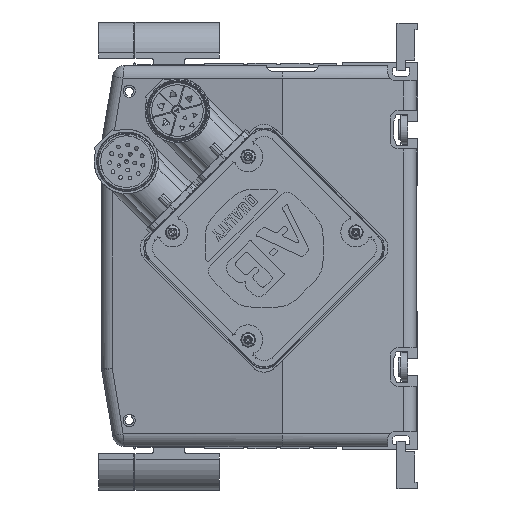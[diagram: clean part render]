
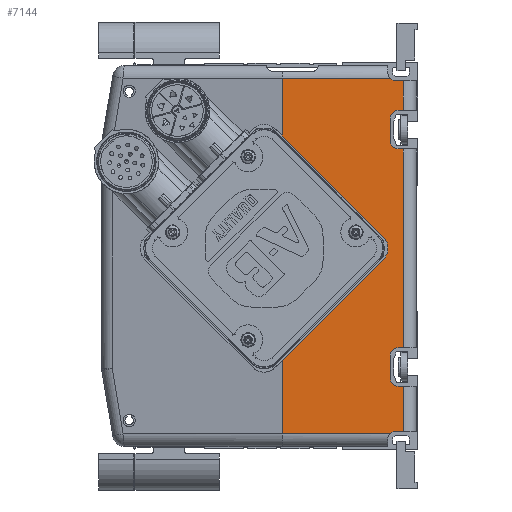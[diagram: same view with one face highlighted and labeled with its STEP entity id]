
A CAD part, left-side view. The second image highlights one B-rep face of the part: STEP entity #7144.
In plain terms, the highlighted planar face has unit normal (-1, 0, 0).
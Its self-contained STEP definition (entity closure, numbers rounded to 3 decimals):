
#5897=DIRECTION('',(0.,0.,-1.));
#5898=VECTOR('',#5897,9.);
#5899=CARTESIAN_POINT('',(0.,10.,53.5));
#5900=LINE('',#5899,#5898);
#5901=DIRECTION('',(0.,-1.,0.));
#5902=VECTOR('',#5901,2.);
#5903=CARTESIAN_POINT('',(0.,7.,41.5));
#5904=LINE('',#5903,#5902);
#5905=DIRECTION('',(0.,0.,1.));
#5906=VECTOR('',#5905,77.);
#5907=CARTESIAN_POINT('',(0.,5.,-35.5));
#5908=LINE('',#5907,#5906);
#5909=DIRECTION('',(0.,1.,0.));
#5910=VECTOR('',#5909,2.);
#5911=CARTESIAN_POINT('',(0.,5.,-35.5));
#5912=LINE('',#5911,#5910);
#5913=DIRECTION('',(0.,0.,-1.));
#5914=VECTOR('',#5913,9.);
#5915=CARTESIAN_POINT('',(0.,10.,-38.5));
#5916=LINE('',#5915,#5914);
#5917=DIRECTION('',(0.,-1.,0.));
#5918=VECTOR('',#5917,2.);
#5919=CARTESIAN_POINT('',(0.,7.,-50.5));
#5920=LINE('',#5919,#5918);
#5921=DIRECTION('',(0.,0.,1.));
#5922=VECTOR('',#5921,17.5);
#5923=CARTESIAN_POINT('',(0.,5.,-68.));
#5924=LINE('',#5923,#5922);
#5925=DIRECTION('',(0.,1.,0.));
#5926=VECTOR('',#5925,3.);
#5927=CARTESIAN_POINT('',(0.,5.,-68.));
#5928=LINE('',#5927,#5926);
#5929=DIRECTION('',(0.,0.,-1.));
#5930=VECTOR('',#5929,28.462);
#5931=CARTESIAN_POINT('',(0.,51.98,-40.538));
#5932=LINE('',#5931,#5930);
#5933=DIRECTION('',(0.,-0.707,0.707));
#5934=VECTOR('',#5933,55.572);
#5935=CARTESIAN_POINT('',(0.,51.98,-40.538));
#5936=LINE('',#5935,#5934);
#5937=CARTESIAN_POINT('',(0.,16.927,3.));
#5938=DIRECTION('',(-1.,0.,0.));
#5939=DIRECTION('',(0.,-0.707,-0.707));
#5940=AXIS2_PLACEMENT_3D('',#5937,#5938,#5939);
#5942=DIRECTION('',(0.,0.707,0.707));
#5943=VECTOR('',#5942,55.572);
#5944=CARTESIAN_POINT('',(0.,12.685,7.243));
#5945=LINE('',#5944,#5943);
#5946=DIRECTION('',(0.,0.,-1.));
#5947=VECTOR('',#5946,22.462);
#5948=CARTESIAN_POINT('',(0.,51.98,69.));
#5949=LINE('',#5948,#5947);
#5950=DIRECTION('',(0.,-1.,0.));
#5951=VECTOR('',#5950,3.);
#5952=CARTESIAN_POINT('',(0.,8.,68.));
#5953=LINE('',#5952,#5951);
#5954=DIRECTION('',(0.,0.,1.));
#5955=VECTOR('',#5954,11.5);
#5956=CARTESIAN_POINT('',(0.,5.,56.5));
#5957=LINE('',#5956,#5955);
#5958=DIRECTION('',(0.,1.,0.));
#5959=VECTOR('',#5958,2.);
#5960=CARTESIAN_POINT('',(0.,5.,56.5));
#5961=LINE('',#5960,#5959);
#5970=CARTESIAN_POINT('',(0.,7.,44.5));
#5971=DIRECTION('',(1.,0.,0.));
#5972=DIRECTION('',(0.,0.,-1.));
#5973=AXIS2_PLACEMENT_3D('',#5970,#5971,#5972);
#6459=DIRECTION('',(0.,-1.,0.));
#6460=VECTOR('',#6459,41.744);
#6461=CARTESIAN_POINT('',(0.,51.98,-69.));
#6462=LINE('',#6461,#6460);
#6469=CARTESIAN_POINT('',(0.,10.236,-69.));
#6471=CARTESIAN_POINT('',(0.,8.,-71.));
#6472=DIRECTION('',(1.,0.,0.));
#6473=DIRECTION('',(0.,0.745,0.667));
#6474=AXIS2_PLACEMENT_3D('',#6471,#6472,#6473);
#6512=CARTESIAN_POINT('',(0.,7.,-47.5));
#6513=DIRECTION('',(1.,0.,0.));
#6514=DIRECTION('',(0.,0.,-1.));
#6515=AXIS2_PLACEMENT_3D('',#6512,#6513,#6514);
#6530=CARTESIAN_POINT('',(0.,7.,-38.5));
#6531=DIRECTION('',(1.,0.,0.));
#6532=DIRECTION('',(0.,1.,0.));
#6533=AXIS2_PLACEMENT_3D('',#6530,#6531,#6532);
#6578=CARTESIAN_POINT('',(0.,8.,71.));
#6579=DIRECTION('',(1.,0.,0.));
#6580=DIRECTION('',(0.,0.,-1.));
#6581=AXIS2_PLACEMENT_3D('',#6578,#6579,#6580);
#6596=DIRECTION('',(0.,1.,0.));
#6597=VECTOR('',#6596,41.744);
#6598=CARTESIAN_POINT('',(0.,10.236,69.));
#6599=LINE('',#6598,#6597);
#6840=CARTESIAN_POINT('',(0.,7.,53.5));
#6841=DIRECTION('',(1.,0.,0.));
#6842=DIRECTION('',(0.,1.,0.));
#6843=AXIS2_PLACEMENT_3D('',#6840,#6841,#6842);
#6880=CARTESIAN_POINT('',(0.,5.,-68.));
#6881=CARTESIAN_POINT('',(0.,5.,-50.5));
#6882=VERTEX_POINT('',#6880);
#6883=VERTEX_POINT('',#6881);
#6884=CARTESIAN_POINT('',(0.,5.,-35.5));
#6885=CARTESIAN_POINT('',(0.,5.,41.5));
#6886=VERTEX_POINT('',#6884);
#6887=VERTEX_POINT('',#6885);
#6888=CARTESIAN_POINT('',(0.,5.,56.5));
#6889=CARTESIAN_POINT('',(0.,5.,68.));
#6890=VERTEX_POINT('',#6888);
#6891=VERTEX_POINT('',#6889);
#6948=CARTESIAN_POINT('',(0.,51.98,-40.538));
#6949=CARTESIAN_POINT('',(0.,12.685,-1.243));
#6950=VERTEX_POINT('',#6948);
#6951=VERTEX_POINT('',#6949);
#6952=CARTESIAN_POINT('',(0.,12.685,7.243));
#6953=VERTEX_POINT('',#6952);
#6954=CARTESIAN_POINT('',(0.,51.98,46.538));
#6955=VERTEX_POINT('',#6954);
#6964=CARTESIAN_POINT('',(0.,51.98,69.));
#6965=VERTEX_POINT('',#6964);
#6966=CARTESIAN_POINT('',(0.,51.98,-69.));
#6967=VERTEX_POINT('',#6966);
#7038=CARTESIAN_POINT('',(0.,8.,68.));
#7040=VERTEX_POINT('',#7038);
#7046=CARTESIAN_POINT('',(0.,7.,41.5));
#7048=VERTEX_POINT('',#7046);
#7050=CARTESIAN_POINT('',(0.,10.,44.5));
#7052=VERTEX_POINT('',#7050);
#7054=CARTESIAN_POINT('',(0.,7.,-50.5));
#7056=VERTEX_POINT('',#7054);
#7058=CARTESIAN_POINT('',(0.,10.,-47.5));
#7060=VERTEX_POINT('',#7058);
#7062=CARTESIAN_POINT('',(0.,10.,53.5));
#7064=VERTEX_POINT('',#7062);
#7066=CARTESIAN_POINT('',(0.,7.,56.5));
#7068=VERTEX_POINT('',#7066);
#7070=CARTESIAN_POINT('',(0.,10.,-38.5));
#7072=VERTEX_POINT('',#7070);
#7074=CARTESIAN_POINT('',(0.,7.,-35.5));
#7076=VERTEX_POINT('',#7074);
#7082=CARTESIAN_POINT('',(0.,8.,-68.));
#7084=VERTEX_POINT('',#7082);
#7086=CARTESIAN_POINT('',(0.,10.236,69.));
#7087=VERTEX_POINT('',#7086);
#7088=VERTEX_POINT('',#6469);
#7089=CARTESIAN_POINT('',(0.,0.,0.));
#7090=DIRECTION('',(1.,0.,0.));
#7091=DIRECTION('',(0.,0.,-1.));
#7092=AXIS2_PLACEMENT_3D('',#7089,#7090,#7091);
#7093=PLANE('',#7092);
#7095=ORIENTED_EDGE('',*,*,#7094,.T.);
#7097=ORIENTED_EDGE('',*,*,#7096,.F.);
#7099=ORIENTED_EDGE('',*,*,#7098,.T.);
#7101=ORIENTED_EDGE('',*,*,#7100,.F.);
#7103=ORIENTED_EDGE('',*,*,#7102,.T.);
#7105=ORIENTED_EDGE('',*,*,#7104,.F.);
#7107=ORIENTED_EDGE('',*,*,#7106,.T.);
#7109=ORIENTED_EDGE('',*,*,#7108,.F.);
#7111=ORIENTED_EDGE('',*,*,#7110,.T.);
#7113=ORIENTED_EDGE('',*,*,#7112,.F.);
#7115=ORIENTED_EDGE('',*,*,#7114,.T.);
#7117=ORIENTED_EDGE('',*,*,#7116,.F.);
#7119=ORIENTED_EDGE('',*,*,#7118,.F.);
#7121=ORIENTED_EDGE('',*,*,#7120,.F.);
#7123=ORIENTED_EDGE('',*,*,#7122,.T.);
#7125=ORIENTED_EDGE('',*,*,#7124,.T.);
#7127=ORIENTED_EDGE('',*,*,#7126,.T.);
#7129=ORIENTED_EDGE('',*,*,#7128,.F.);
#7131=ORIENTED_EDGE('',*,*,#7130,.F.);
#7133=ORIENTED_EDGE('',*,*,#7132,.F.);
#7135=ORIENTED_EDGE('',*,*,#7134,.T.);
#7137=ORIENTED_EDGE('',*,*,#7136,.F.);
#7139=ORIENTED_EDGE('',*,*,#7138,.T.);
#7141=ORIENTED_EDGE('',*,*,#7140,.F.);
#7142=EDGE_LOOP('',(#7095,#7097,#7099,#7101,#7103,#7105,#7107,#7109,#7111,#7113,
#7115,#7117,#7119,#7121,#7123,#7125,#7127,#7129,#7131,#7133,#7135,#7137,#7139,
#7141));
#7143=FACE_OUTER_BOUND('',#7142,.F.);
#7144=ADVANCED_FACE('',(#7143),#7093,.F.);
#5941=CIRCLE('',#5940,6.);
#5974=CIRCLE('',#5973,3.);
#6475=CIRCLE('',#6474,3.);
#6516=CIRCLE('',#6515,3.);
#6534=CIRCLE('',#6533,3.);
#6582=CIRCLE('',#6581,3.);
#6844=CIRCLE('',#6843,3.);
#7094=EDGE_CURVE('',#7064,#7052,#5900,.T.);
#7096=EDGE_CURVE('',#7048,#7052,#5974,.T.);
#7098=EDGE_CURVE('',#7048,#6887,#5904,.T.);
#7100=EDGE_CURVE('',#6886,#6887,#5908,.T.);
#7102=EDGE_CURVE('',#6886,#7076,#5912,.T.);
#7104=EDGE_CURVE('',#7072,#7076,#6534,.T.);
#7106=EDGE_CURVE('',#7072,#7060,#5916,.T.);
#7108=EDGE_CURVE('',#7056,#7060,#6516,.T.);
#7110=EDGE_CURVE('',#7056,#6883,#5920,.T.);
#7112=EDGE_CURVE('',#6882,#6883,#5924,.T.);
#7114=EDGE_CURVE('',#6882,#7084,#5928,.T.);
#7116=EDGE_CURVE('',#7088,#7084,#6475,.T.);
#7118=EDGE_CURVE('',#6967,#7088,#6462,.T.);
#7120=EDGE_CURVE('',#6950,#6967,#5932,.T.);
#7122=EDGE_CURVE('',#6950,#6951,#5936,.T.);
#7124=EDGE_CURVE('',#6951,#6953,#5941,.T.);
#7126=EDGE_CURVE('',#6953,#6955,#5945,.T.);
#7128=EDGE_CURVE('',#6965,#6955,#5949,.T.);
#7130=EDGE_CURVE('',#7087,#6965,#6599,.T.);
#7132=EDGE_CURVE('',#7040,#7087,#6582,.T.);
#7134=EDGE_CURVE('',#7040,#6891,#5953,.T.);
#7136=EDGE_CURVE('',#6890,#6891,#5957,.T.);
#7138=EDGE_CURVE('',#6890,#7068,#5961,.T.);
#7140=EDGE_CURVE('',#7064,#7068,#6844,.T.);
